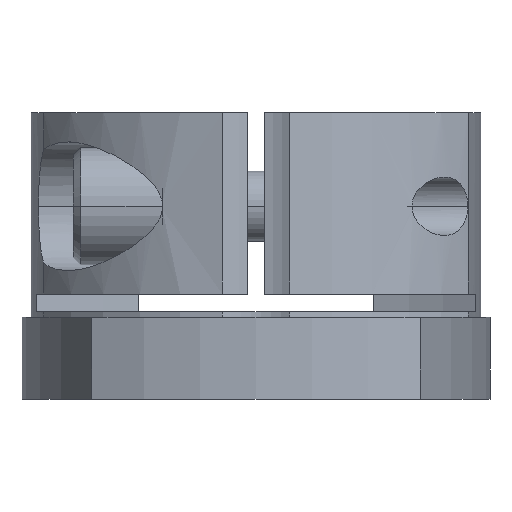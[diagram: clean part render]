
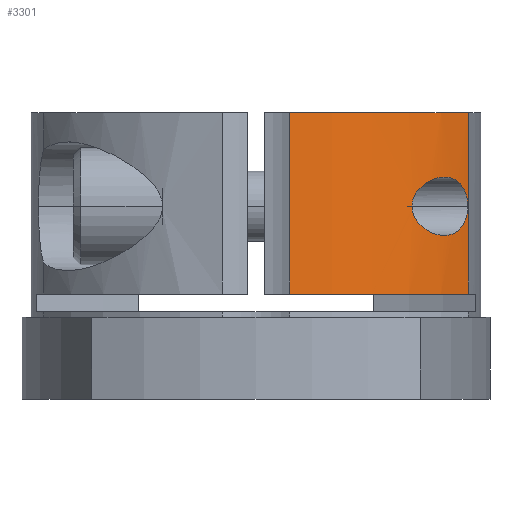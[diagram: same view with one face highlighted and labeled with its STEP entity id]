
A CAD part, front view. The second image highlights one B-rep face of the part: STEP entity #3301.
In plain terms, the highlighted cylindrical face has radius 22 mm (diameter 44 mm), a partial arc.
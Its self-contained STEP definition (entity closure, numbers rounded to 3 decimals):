
#729=CARTESIAN_POINT('',(18.104,-12.5,13.0));
#730=VERTEX_POINT('',#729);
#739=CARTESIAN_POINT('',(13.332,-17.5,13.0));
#740=VERTEX_POINT('',#739);
#741=CARTESIAN_POINT('',(13.332,-17.5,13.0));
#742=CARTESIAN_POINT('',(13.332,-17.5,13.159));
#743=CARTESIAN_POINT('',(13.353,-17.485,13.318));
#744=CARTESIAN_POINT('',(13.43,-17.425,13.626));
#745=CARTESIAN_POINT('',(13.487,-17.382,13.775));
#746=CARTESIAN_POINT('',(13.627,-17.272,14.055));
#747=CARTESIAN_POINT('',(13.711,-17.205,14.186));
#748=CARTESIAN_POINT('',(13.892,-17.059,14.425));
#749=CARTESIAN_POINT('',(13.99,-16.979,14.533));
#750=CARTESIAN_POINT('',(14.376,-16.657,14.908));
#751=CARTESIAN_POINT('',(14.719,-16.358,15.13));
#752=CARTESIAN_POINT('',(15.244,-15.865,15.353));
#753=CARTESIAN_POINT('',(15.42,-15.693,15.409));
#754=CARTESIAN_POINT('',(15.765,-15.346,15.482));
#755=CARTESIAN_POINT('',(15.934,-15.171,15.5));
#756=CARTESIAN_POINT('',(16.235,-14.848,15.5));
#757=CARTESIAN_POINT('',(16.38,-14.688,15.486));
#758=CARTESIAN_POINT('',(16.667,-14.362,15.423));
#759=CARTESIAN_POINT('',(16.808,-14.196,15.374));
#760=CARTESIAN_POINT('',(17.077,-13.871,15.238));
#761=CARTESIAN_POINT('',(17.205,-13.713,15.151));
#762=CARTESIAN_POINT('',(17.439,-13.414,14.941));
#763=CARTESIAN_POINT('',(17.545,-13.274,14.818));
#764=CARTESIAN_POINT('',(17.707,-13.057,14.579));
#765=CARTESIAN_POINT('',(17.772,-12.967,14.463));
#766=CARTESIAN_POINT('',(17.889,-12.806,14.209));
#767=CARTESIAN_POINT('',(17.939,-12.735,14.07));
#768=CARTESIAN_POINT('',(18.021,-12.619,13.778));
#769=CARTESIAN_POINT('',(18.053,-12.574,13.624));
#770=CARTESIAN_POINT('',(18.094,-12.514,13.312));
#771=CARTESIAN_POINT('',(18.104,-12.5,13.154));
#772=CARTESIAN_POINT('',(18.104,-12.5,13.0));
#773=B_SPLINE_CURVE_WITH_KNOTS('',3,(#741,#742,#743,#744,#745,#746,#747,#748,#749,#750,#751,#752,#753,#754,#755,#756,#757,#758,#759,#760,#761,#762,#763,#764,#765,#766,#767,#768,#769,#770,#771,#772),.UNSPECIFIED.,.F.,.U.,(4,2,2,2,2,2,2,2,2,2,2,2,2,2,2,4),(9.055,9.532,10.009,10.486,10.963,12.366,13.068,13.77,14.393,15.016,15.639,16.262,16.724,17.185,17.647,18.109),.UNSPECIFIED.);
#774=EDGE_CURVE('',#740,#730,#773,.T.);
#2390=CARTESIAN_POINT('',(18.104,-12.5,13.0));
#2391=CARTESIAN_POINT('',(18.104,-12.5,12.846));
#2392=CARTESIAN_POINT('',(18.094,-12.514,12.688));
#2393=CARTESIAN_POINT('',(18.053,-12.574,12.376));
#2394=CARTESIAN_POINT('',(18.021,-12.619,12.222));
#2395=CARTESIAN_POINT('',(17.939,-12.735,11.93));
#2396=CARTESIAN_POINT('',(17.889,-12.806,11.791));
#2397=CARTESIAN_POINT('',(17.772,-12.967,11.537));
#2398=CARTESIAN_POINT('',(17.707,-13.057,11.421));
#2399=CARTESIAN_POINT('',(17.545,-13.274,11.182));
#2400=CARTESIAN_POINT('',(17.439,-13.414,11.059));
#2401=CARTESIAN_POINT('',(17.205,-13.713,10.849));
#2402=CARTESIAN_POINT('',(17.077,-13.871,10.762));
#2403=CARTESIAN_POINT('',(16.808,-14.196,10.626));
#2404=CARTESIAN_POINT('',(16.667,-14.362,10.577));
#2405=CARTESIAN_POINT('',(16.38,-14.688,10.514));
#2406=CARTESIAN_POINT('',(16.235,-14.848,10.5));
#2407=CARTESIAN_POINT('',(15.934,-15.171,10.5));
#2408=CARTESIAN_POINT('',(15.765,-15.346,10.518));
#2409=CARTESIAN_POINT('',(15.42,-15.693,10.591));
#2410=CARTESIAN_POINT('',(15.244,-15.865,10.647));
#2411=CARTESIAN_POINT('',(14.719,-16.358,10.87));
#2412=CARTESIAN_POINT('',(14.376,-16.657,11.092));
#2413=CARTESIAN_POINT('',(13.99,-16.979,11.467));
#2414=CARTESIAN_POINT('',(13.892,-17.059,11.575));
#2415=CARTESIAN_POINT('',(13.711,-17.205,11.814));
#2416=CARTESIAN_POINT('',(13.627,-17.272,11.945));
#2417=CARTESIAN_POINT('',(13.487,-17.382,12.225));
#2418=CARTESIAN_POINT('',(13.43,-17.425,12.374));
#2419=CARTESIAN_POINT('',(13.353,-17.485,12.682));
#2420=CARTESIAN_POINT('',(13.332,-17.5,12.841));
#2421=CARTESIAN_POINT('',(13.332,-17.5,13.0));
#2422=B_SPLINE_CURVE_WITH_KNOTS('',3,(#2390,#2391,#2392,#2393,#2394,#2395,#2396,#2397,#2398,#2399,#2400,#2401,#2402,#2403,#2404,#2405,#2406,#2407,#2408,#2409,#2410,#2411,#2412,#2413,#2414,#2415,#2416,#2417,#2418,#2419,#2420,#2421),.UNSPECIFIED.,.F.,.U.,(4,2,2,2,2,2,2,2,2,2,2,2,2,2,2,4),(0.0,0.462,0.924,1.386,1.847,2.47,3.093,3.716,4.339,5.041,5.743,7.147,7.624,8.101,8.578,9.055),.UNSPECIFIED.);
#2423=EDGE_CURVE('',#730,#740,#2422,.T.);
#2598=CARTESIAN_POINT('',(2.875,-21.811,21.0));
#2599=VERTEX_POINT('',#2598);
#2600=CARTESIAN_POINT('',(2.875,-21.811,5.5));
#2601=VERTEX_POINT('',#2600);
#2602=CARTESIAN_POINT('',(2.875,-21.811,21.0));
#2603=DIRECTION('',(0.0,0.0,-1.0));
#2604=VECTOR('',#2603,15.5);
#2605=LINE('',#2602,#2604);
#2606=EDGE_CURVE('',#2599,#2601,#2605,.T.);
#3013=CARTESIAN_POINT('',(18.151,-12.431,21.0));
#3014=VERTEX_POINT('',#3013);
#3015=CARTESIAN_POINT('',(0.,0.,21.0));
#3016=DIRECTION('',(0.0,0.0,-1.0));
#3017=DIRECTION('',(1.0,0.0,0.0));
#3018=AXIS2_PLACEMENT_3D('',#3015,#3016,#3017);
#3019=CIRCLE('',#3018,22.);
#3020=EDGE_CURVE('',#3014,#2599,#3019,.T.);
#3273=CARTESIAN_POINT('',(0.,0.,-3.5));
#3274=DIRECTION('',(0.0,0.0,1.0));
#3275=DIRECTION('',(1.0,0.0,0.0));
#3276=AXIS2_PLACEMENT_3D('',#3273,#3274,#3275);
#3277=CYLINDRICAL_SURFACE('',#3276,22.);
#3278=ORIENTED_EDGE('',*,*,#2606,.T.);
#3279=CARTESIAN_POINT('',(18.151,-12.431,5.5));
#3280=VERTEX_POINT('',#3279);
#3281=CARTESIAN_POINT('',(0.,0.,5.5));
#3282=DIRECTION('',(0.0,0.0,1.0));
#3283=DIRECTION('',(1.0,0.0,0.0));
#3284=AXIS2_PLACEMENT_3D('',#3281,#3282,#3283);
#3285=CIRCLE('',#3284,22.);
#3286=EDGE_CURVE('',#2601,#3280,#3285,.T.);
#3287=ORIENTED_EDGE('',*,*,#3286,.T.);
#3288=CARTESIAN_POINT('',(18.151,-12.431,5.5));
#3289=DIRECTION('',(0.0,0.0,1.0));
#3290=VECTOR('',#3289,15.5);
#3291=LINE('',#3288,#3290);
#3292=EDGE_CURVE('',#3280,#3014,#3291,.T.);
#3293=ORIENTED_EDGE('',*,*,#3292,.T.);
#3294=ORIENTED_EDGE('',*,*,#3020,.T.);
#3295=EDGE_LOOP('',(#3278,#3287,#3293,#3294));
#3296=FACE_OUTER_BOUND('',#3295,.T.);
#3297=ORIENTED_EDGE('',*,*,#2423,.T.);
#3298=ORIENTED_EDGE('',*,*,#774,.T.);
#3299=EDGE_LOOP('',(#3297,#3298));
#3300=FACE_BOUND('',#3299,.T.);
#3301=ADVANCED_FACE('',(#3296,#3300),#3277,.T.);
